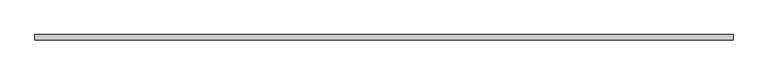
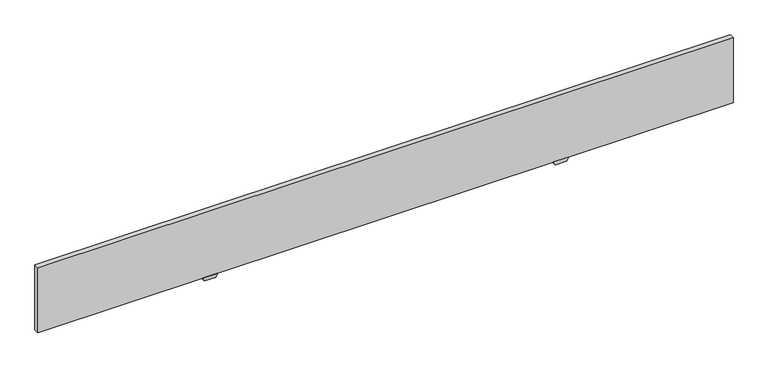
"""IFC4 building model written with IfcOpenShell, lengths in millimetres: proxy geometry."""

from ifc_helpers import new_model, si_unit, frame, origin, origin_with_axes, place, context, project, spatial, polyline, outline, extrude, source, transform, mapped, element, save


def specialty_equipment_b684998a(model_context):
    return source(origin(), model_context, "Body", "SweptSolid", [
        extrude(outline(polyline([(0.0, 582.6125), (-12.7, 589.9448484), (-12.7, 629.2551516), (0.0, 636.5875), (0.0, 582.6125)])), frame((0.0, -9.017, 0.0), z_axis=(0.0, 1.0, 0.0), x_axis=(0.0, 0.0, 1.0)), (0.0, 0.0, 1.0), 18.034),
        extrude(outline(polyline([(0.0, -636.5875), (-12.7, -629.2551516), (-12.7, -589.9448484), (0.0, -582.6125), (0.0, -636.5875)])), frame((0.0, -9.017, 0.0), z_axis=(0.0, 1.0, 0.0), x_axis=(0.0, 0.0, 1.0)), (0.0, 0.0, 1.0), 18.034),
        extrude(outline(polyline([(-1206.5, -9.017), (-1206.5, 9.017), (1206.5, 9.017), (1206.5, -9.017), (-1206.5, -9.017)])), origin_with_axes(), (0.0, 0.0, 1.0), 238.252),
    ])


if __name__ == "__main__":
    model = new_model("IFC4")
    model_context = context("Model", 3, world=origin())
    ifc_project = project(units=[si_unit("LENGTHUNIT", "METRE", prefix="MILLI")], contexts=[model_context])
    site = spatial("IfcSite", under=ifc_project)
    building = spatial("IfcBuilding", under=site)
    placement = place(None, origin())
    specialty_equipment_shape = specialty_equipment_b684998a(model_context)
    element("IfcBuildingElementProxy", 1, Name="SE_TIMBER BAFFLE_SINGLE_FB_TURF : 95\" - GRIDLOCK", ObjectType="SE_TIMBER BAFFLE_SINGLE_FB_TURF : 95\" - GRIDLOCK", at=placement, inside=building, context=model_context, shape_type="MappedRepresentation", body=[
        mapped(specialty_equipment_shape, transform((0.0, 0.0, 0.0), x_axis=(1.0, 0.0, 0.0), y_axis=(0.0, 1.0, 0.0), z_axis=(0.0, 0.0, 1.0))),
    ])
    save(model, "model.ifc")
